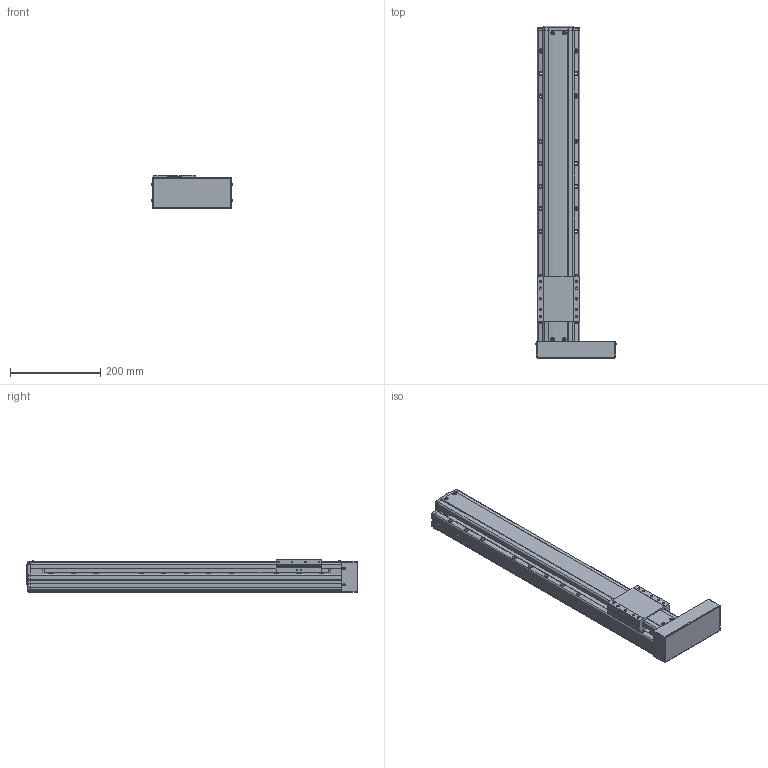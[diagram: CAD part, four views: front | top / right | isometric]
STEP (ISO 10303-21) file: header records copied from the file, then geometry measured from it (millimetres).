
FILE_DESCRIPTION(('STEP AP214'),'1');
FILE_NAME('Z:/Web/3D/PSA95/STP/PSA95-500 (3D)/PSA95ㅁㅁ-500PR.stp','2014-07-03T00:29:08',(' '),(' '),'Spatial InterOp 3D',' ',' ');
FILE_SCHEMA(('automotive_design'));
Length unit declared in the file: millimetre
Products named in the file (23): BASE; RRCV; 스크루 : Round - M4.0 x 10.0; 너트 : Square - M10.0 x 220.7419; RR1500; FRCV-090; 스크루 : Round - M4.0 x 6.0; SLBL-PA90; MOTOR PLATE COVER; 스크루 : Round - M3.0 x 6.0
Bounding box: 179.13 x 736.5 x 74 mm (x, y, z)
Volume: 4210590.4 mm3; surface area: 437864.2 mm2
Topology: 23 solids, 23 shells, 1927 faces, 5178 edges, 3294 vertices
Faces by surface type: plane 1055, cylinder 595, cone 197, sphere 42, bspline 24, torus 14
Entity records: 77730 total; most frequent: CARTESIAN_POINT 13445, DIRECTION 10176, ORIENTED_EDGE 10084, EDGE_CURVE 5042, LINE 3418, VECTOR 3418, AXIS2_PLACEMENT_3D 3379, VERTEX_POINT 3294
